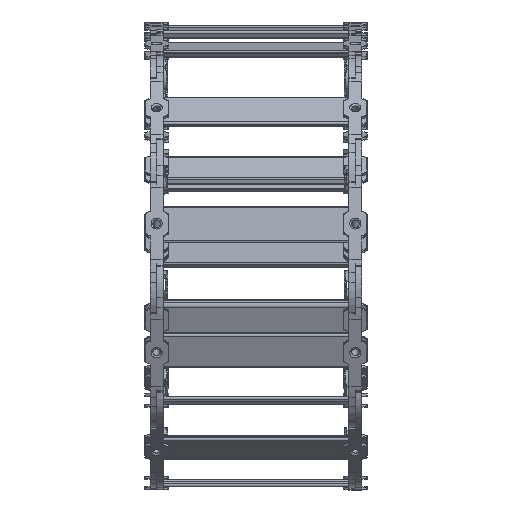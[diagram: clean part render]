
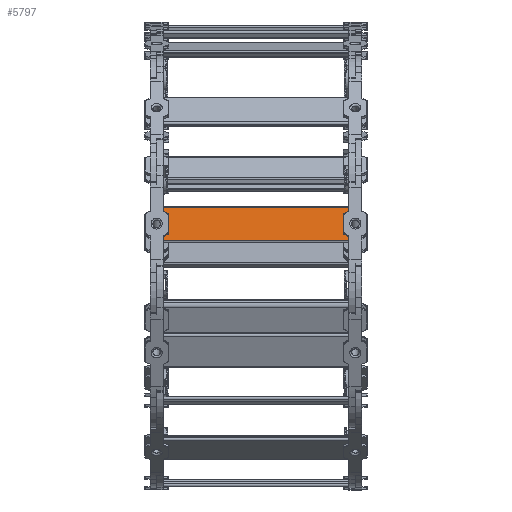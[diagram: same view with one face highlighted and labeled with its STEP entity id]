
A CAD part, front view. The second image highlights one B-rep face of the part: STEP entity #5797.
In plain terms, the highlighted planar face has unit normal (0, -0.984, 0.178) as drawn and (0, -1, 0) by its records, which use the part's own axes.
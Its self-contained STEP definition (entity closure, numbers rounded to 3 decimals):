
#5628=CARTESIAN_POINT('',(60.583,44.077,204.));
#5629=VERTEX_POINT('',#5628);
#5638=CARTESIAN_POINT('',(61.937,44.077,204.));
#5639=VERTEX_POINT('',#5638);
#5640=CARTESIAN_POINT('',(61.937,44.077,204.));
#5641=DIRECTION('',(-1.0,0.0,0.0));
#5642=VECTOR('',#5641,1.354);
#5643=LINE('',#5640,#5642);
#5644=EDGE_CURVE('',#5639,#5629,#5643,.T.);
#5668=CARTESIAN_POINT('',(67.228,44.077,204.));
#5669=VERTEX_POINT('',#5668);
#5678=CARTESIAN_POINT('',(68.583,44.077,204.));
#5679=VERTEX_POINT('',#5678);
#5680=CARTESIAN_POINT('',(68.583,44.077,204.));
#5681=DIRECTION('',(-1.0,0.0,0.0));
#5682=VECTOR('',#5681,1.354);
#5683=LINE('',#5680,#5682);
#5684=EDGE_CURVE('',#5679,#5669,#5683,.T.);
#5709=CARTESIAN_POINT('',(68.583,44.077,200.0));
#5710=VERTEX_POINT('',#5709);
#5711=CARTESIAN_POINT('',(68.583,44.077,200.0));
#5712=DIRECTION('',(0.0,0.0,1.0));
#5713=VECTOR('',#5712,4.);
#5714=LINE('',#5711,#5713);
#5715=EDGE_CURVE('',#5710,#5679,#5714,.T.);
#5734=CARTESIAN_POINT('',(61.582,44.077,0.0));
#5735=DIRECTION('',(0.0,-1.0,0.0));
#5736=DIRECTION('',(0.0,0.0,-1.0));
#5737=AXIS2_PLACEMENT_3D('',#5734,#5735,#5736);
#5738=PLANE('',#5737);
#5739=ORIENTED_EDGE('',*,*,#5684,.T.);
#5740=CARTESIAN_POINT('',(64.583,44.077,207.0));
#5741=DIRECTION('',(0.0,1.0,0.0));
#5742=DIRECTION('',(1.0,0.0,0.0));
#5743=AXIS2_PLACEMENT_3D('',#5740,#5741,#5742);
#5744=CIRCLE('',#5743,4.0);
#5745=EDGE_CURVE('',#5669,#5639,#5744,.T.);
#5746=ORIENTED_EDGE('',*,*,#5745,.T.);
#5747=ORIENTED_EDGE('',*,*,#5644,.T.);
#5748=CARTESIAN_POINT('',(60.583,44.077,200.0));
#5749=VERTEX_POINT('',#5748);
#5750=CARTESIAN_POINT('',(60.583,44.077,204.));
#5751=DIRECTION('',(0.0,0.0,-1.0));
#5752=VECTOR('',#5751,4.);
#5753=LINE('',#5750,#5752);
#5754=EDGE_CURVE('',#5629,#5749,#5753,.T.);
#5755=ORIENTED_EDGE('',*,*,#5754,.T.);
#5756=CARTESIAN_POINT('',(46.624,44.077,200.0));
#5757=VERTEX_POINT('',#5756);
#5758=CARTESIAN_POINT('',(60.583,44.077,200.0));
#5759=DIRECTION('',(-1.0,0.0,0.0));
#5760=VECTOR('',#5759,13.959);
#5761=LINE('',#5758,#5760);
#5762=EDGE_CURVE('',#5749,#5757,#5761,.T.);
#5763=ORIENTED_EDGE('',*,*,#5762,.T.);
#5764=CARTESIAN_POINT('',(46.624,44.077,0.0));
#5765=VERTEX_POINT('',#5764);
#5766=CARTESIAN_POINT('',(46.624,44.077,0.0));
#5767=DIRECTION('',(0.0,0.0,1.0));
#5768=VECTOR('',#5767,200.0);
#5769=LINE('',#5766,#5768);
#5770=EDGE_CURVE('',#5765,#5757,#5769,.T.);
#5771=ORIENTED_EDGE('',*,*,#5770,.F.);
#5772=CARTESIAN_POINT('',(82.541,44.077,0.0));
#5773=VERTEX_POINT('',#5772);
#5774=CARTESIAN_POINT('',(46.624,44.077,0.0));
#5775=DIRECTION('',(1.0,0.0,0.0));
#5776=VECTOR('',#5775,35.918);
#5777=LINE('',#5774,#5776);
#5778=EDGE_CURVE('',#5765,#5773,#5777,.T.);
#5779=ORIENTED_EDGE('',*,*,#5778,.T.);
#5780=CARTESIAN_POINT('',(82.541,44.077,200.0));
#5781=VERTEX_POINT('',#5780);
#5782=CARTESIAN_POINT('',(82.541,44.077,0.0));
#5783=DIRECTION('',(0.0,0.0,1.0));
#5784=VECTOR('',#5783,200.0);
#5785=LINE('',#5782,#5784);
#5786=EDGE_CURVE('',#5773,#5781,#5785,.T.);
#5787=ORIENTED_EDGE('',*,*,#5786,.T.);
#5788=CARTESIAN_POINT('',(82.541,44.077,200.0));
#5789=DIRECTION('',(-1.0,0.0,0.0));
#5790=VECTOR('',#5789,13.959);
#5791=LINE('',#5788,#5790);
#5792=EDGE_CURVE('',#5781,#5710,#5791,.T.);
#5793=ORIENTED_EDGE('',*,*,#5792,.T.);
#5794=ORIENTED_EDGE('',*,*,#5715,.T.);
#5795=EDGE_LOOP('',(#5739,#5746,#5747,#5755,#5763,#5771,#5779,#5787,#5793,#5794));
#5796=FACE_OUTER_BOUND('',#5795,.T.);
#5797=ADVANCED_FACE('',(#5796),#5738,.T.);
